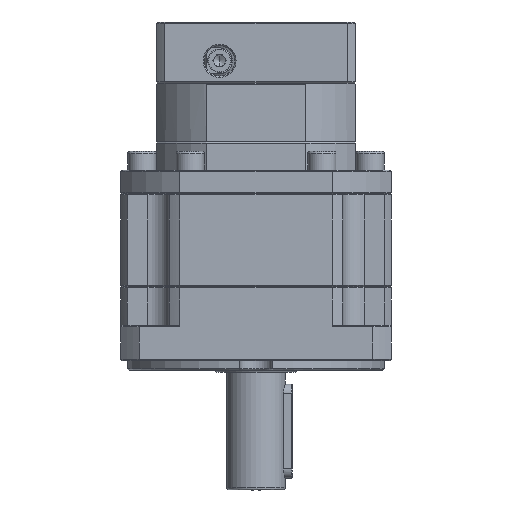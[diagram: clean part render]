
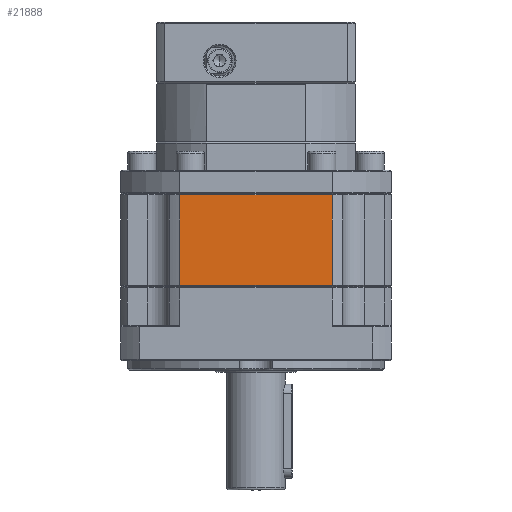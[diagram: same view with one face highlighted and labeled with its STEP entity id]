
A CAD part, front view. The second image highlights one B-rep face of the part: STEP entity #21888.
In plain terms, the highlighted planar face has unit normal (0, -1, 0).
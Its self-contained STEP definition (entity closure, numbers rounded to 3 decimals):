
#6992 = EDGE_CURVE ( 'NONE', #15082, #30436, #41364, .T. ) ;
#9402 = VECTOR ( 'NONE', #44878, 1000. ) ;
#9717 = CARTESIAN_POINT ( 'NONE',  ( 29.424, 18.519, -109.128 ) ) ;
#11111 = DIRECTION ( 'NONE',  ( 0., 0., -1. ) ) ;
#14003 = VERTEX_POINT ( 'NONE', #77932 ) ;
#15082 = VERTEX_POINT ( 'NONE', #9717 ) ;
#17239 = PLANE ( 'NONE',  #112365 ) ;
#21888 = ADVANCED_FACE ( 'NONE', ( #29340 ), #17239, .F. ) ;
#29340 = FACE_OUTER_BOUND ( 'NONE', #87307, .T. ) ;
#30170 = ORIENTED_EDGE ( 'NONE', *, *, #83489, .F. ) ;
#30436 = VERTEX_POINT ( 'NONE', #41693 ) ;
#33029 = CARTESIAN_POINT ( 'NONE',  ( 94.223, 18.519, -70.628 ) ) ;
#33631 = LINE ( 'NONE', #96560, #73726 ) ;
#36037 = LINE ( 'NONE', #87304, #9402 ) ;
#37050 = CARTESIAN_POINT ( 'NONE',  ( 119.324, 18.519, -109.128 ) ) ;
#41364 = LINE ( 'NONE', #67188, #111449 ) ;
#41693 = CARTESIAN_POINT ( 'NONE',  ( 29.424, 18.519, -70.628 ) ) ;
#44878 = DIRECTION ( 'NONE',  ( 1., 0., 0. ) ) ;
#45788 = ORIENTED_EDGE ( 'NONE', *, *, #125215, .F. ) ;
#51775 = DIRECTION ( 'NONE',  ( 0., 1., 0. ) ) ;
#67188 = CARTESIAN_POINT ( 'NONE',  ( 29.424, 18.519, -70.128 ) ) ;
#73243 = DIRECTION ( 'NONE',  ( -1., 0., 0. ) ) ;
#73726 = VECTOR ( 'NONE', #11111, 1000. ) ;
#73771 = VECTOR ( 'NONE', #80499, 1000. ) ;
#77932 = CARTESIAN_POINT ( 'NONE',  ( 94.223, 18.519, -109.128 ) ) ;
#78576 = EDGE_CURVE ( 'NONE', #87135, #14003, #33631, .T. ) ;
#80499 = DIRECTION ( 'NONE',  ( -1., 0., 0. ) ) ;
#83489 = EDGE_CURVE ( 'NONE', #30436, #87135, #36037, .T. ) ;
#87135 = VERTEX_POINT ( 'NONE', #33029 ) ;
#87304 = CARTESIAN_POINT ( 'NONE',  ( 61.824, 18.519, -70.628 ) ) ;
#87307 = EDGE_LOOP ( 'NONE', ( #45788, #122394, #30170, #104885 ) ) ;
#96560 = CARTESIAN_POINT ( 'NONE',  ( 94.223, 18.519, -70.128 ) ) ;
#104885 = ORIENTED_EDGE ( 'NONE', *, *, #6992, .F. ) ;
#109112 = DIRECTION ( 'NONE',  ( 0., 0., 1. ) ) ;
#111449 = VECTOR ( 'NONE', #109112, 1000. ) ;
#112365 = AXIS2_PLACEMENT_3D ( 'NONE', #115625, #51775, #73243 ) ;
#115625 = CARTESIAN_POINT ( 'NONE',  ( 119.324, 18.519, -70.128 ) ) ;
#116931 = LINE ( 'NONE', #37050, #73771 ) ;
#122394 = ORIENTED_EDGE ( 'NONE', *, *, #78576, .F. ) ;
#125215 = EDGE_CURVE ( 'NONE', #14003, #15082, #116931, .T. ) ;
